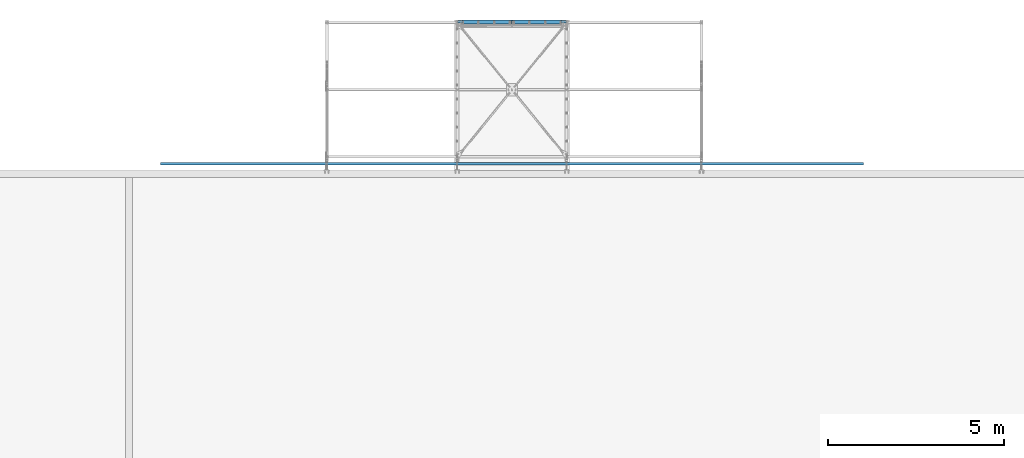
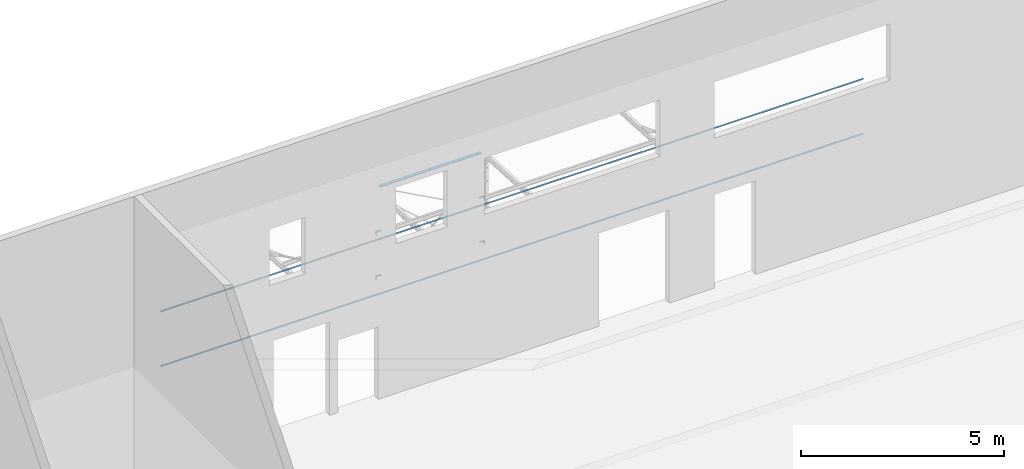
# One storey, part 10 of 10: 8 beams, 8 elements without a shape of their own.
"""IFC2X3 building model written with IfcOpenShell, lengths in millimetres."""

from ifc_helpers import new_model, si_unit, frame, origin_with_axes, place, context, subcontext, project, spatial, faceted_brep, material, type_object, element, aggregate, save


model = new_model("IFC2X3")

# Units and contexts
model_context = context("Model", 3, precision=1e-05, world=origin_with_axes())
body_context = subcontext(model_context, "Body", "Model", "MODEL_VIEW")
ifc_project = project(units=[si_unit("LENGTHUNIT", "METRE", prefix="MILLI"), si_unit("AREAUNIT", "SQUARE_METRE"), si_unit("VOLUMEUNIT", "CUBIC_METRE"), si_unit("MASSUNIT", "GRAM", prefix="KILO"), si_unit("TIMEUNIT", "SECOND"), si_unit("PLANEANGLEUNIT", "RADIAN"), si_unit("SOLIDANGLEUNIT", "STERADIAN"), si_unit("THERMODYNAMICTEMPERATUREUNIT", "DEGREE_CELSIUS"), si_unit("LUMINOUSINTENSITYUNIT", "LUMEN")], contexts=[model_context])

# Site, building, storey
site_placement = place(None, origin_with_axes())
site = spatial("IfcSite", under=ifc_project, at=site_placement, Name="Undefined", CompositionType="ELEMENT")
building_placement = place(site_placement, origin_with_axes())
building = spatial("IfcBuilding", under=site, at=building_placement, Name="Undefined", CompositionType="ELEMENT")
storey_placement = place(building_placement, origin_with_axes())
storey = spatial("IfcBuildingStorey", under=building, at=storey_placement, Name="Undefined", CompositionType="ELEMENT", Elevation=0.0)

# Assembly, beam
assembly_1_placement = place(storey_placement, origin_with_axes())
assembly_1 = element("IfcElementAssembly", 1, at=assembly_1_placement, inside=storey, AssemblyPlace="NOTDEFINED", PredefinedType="NOTDEFINED")
ifc_material = material(Name="Undefined/S235-E24")
beam_type_1 = type_object("IfcBeamType", Name="PL1*20000", PredefinedType="NOTDEFINED")
beam_1_placement = place(assembly_1_placement, frame((30452.9999822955, 25256.8676920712, 4458.83811292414), z_axis=(-1.0, 0.0, 0.0), x_axis=(-1.99997884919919e-09, 0.707106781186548, -0.707106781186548)))
beam_1 = element("IfcBeam", 2, at=beam_1_placement, type_object=beam_type_1, material=ifc_material, Name="BAVETTE", ObjectType="PL1*20000", context=body_context, shape_type="Brep", body=[
    faceted_brep([(-4.21823642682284e-09, -0.499999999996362, -10000.0), (4.21459844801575e-09, -0.5, 10000.0), (4.22005541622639e-09, 0.499999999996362, 10000.0), (-4.2127794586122e-09, 0.5, -10000.0), (11.9999994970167, 0.49999999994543, 10000.0), (11.9999994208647, 0.49999999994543, -10000.0), (9.58583235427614, -0.500000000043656, -10000.0), (9.58583243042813, -0.500000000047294, 10000.0), (-23.3547165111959, -34.8556789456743, 9999.99999999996), (-23.3547164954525, -34.8556789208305, -10000.0), (-23.4070299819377, -33.4937610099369, -10000.0), (-23.4070299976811, -33.4937610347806, 9999.99999999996), (-72.852191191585, 7.57072793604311, 9999.99999999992), (-72.8521911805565, 7.57072794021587, -10000.0000000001), (-72.9044950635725, 8.93263761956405, -10000.0000000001), (-72.9044950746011, 8.93263761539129, 9999.99999999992), (-108.207530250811, -27.7846111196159, 9999.99999999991), (-108.207530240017, -27.7846111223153, -10000.0000000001), (-108.914637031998, -27.0775043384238, 9999.99999999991), (-108.914637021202, -27.0775043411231, -10000.0000000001)], [[[0, 1, 2, 3]], [[3, 2, 4, 5]], [[1, 0, 6, 7]], [[5, 4, 8, 9]], [[7, 6, 10, 11]], [[9, 8, 12, 13]], [[11, 10, 14, 15]], [[13, 12, 16, 17]], [[12, 8, 4, 2, 1, 7, 11, 15, 18, 16]], [[15, 14, 19, 18]], [[14, 10, 6, 0, 3, 5, 9, 13, 17, 19]], [[18, 19, 17, 16]]]),
])
aggregate(assembly_1, [beam_1])

assembly_2_placement = place(storey_placement, origin_with_axes())
assembly_2 = element("IfcElementAssembly", 3, at=assembly_2_placement, inside=storey, AssemblyPlace="NOTDEFINED", PredefinedType="NOTDEFINED")
beam_2_placement = place(assembly_2_placement, frame((30452.9999822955, 25256.8676920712, 2808.83811292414), z_axis=(-1.0, 0.0, 0.0), x_axis=(-1.99997884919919e-09, 0.707106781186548, -0.707106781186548)))
beam_2 = element("IfcBeam", 4, at=beam_2_placement, type_object=beam_type_1, material=ifc_material, Name="BAVETTE", ObjectType="PL1*20000", context=body_context, shape_type="Brep", body=[
    faceted_brep([(-4.21823642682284e-09, -0.499999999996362, -10000.0), (4.21459844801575e-09, -0.5, 10000.0), (4.22005541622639e-09, 0.499999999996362, 10000.0), (-4.2127794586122e-09, 0.5, -10000.0), (11.9999994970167, 0.49999999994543, 10000.0), (11.9999994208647, 0.49999999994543, -10000.0), (9.58583235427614, -0.500000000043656, -10000.0), (9.58583243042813, -0.500000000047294, 10000.0), (-23.3547165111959, -34.8556789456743, 9999.99999999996), (-23.3547164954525, -34.8556789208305, -10000.0), (-23.4070299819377, -33.4937610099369, -10000.0), (-23.4070299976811, -33.4937610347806, 9999.99999999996), (-72.852191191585, 7.57072793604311, 9999.99999999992), (-72.8521911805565, 7.57072794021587, -10000.0000000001), (-72.9044950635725, 8.93263761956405, -10000.0000000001), (-72.9044950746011, 8.93263761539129, 9999.99999999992), (-108.207530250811, -27.7846111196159, 9999.99999999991), (-108.207530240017, -27.7846111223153, -10000.0000000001), (-108.914637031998, -27.0775043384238, 9999.99999999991), (-108.914637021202, -27.0775043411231, -10000.0000000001)], [[[0, 1, 2, 3]], [[3, 2, 4, 5]], [[1, 0, 6, 7]], [[5, 4, 8, 9]], [[7, 6, 10, 11]], [[9, 8, 12, 13]], [[11, 10, 14, 15]], [[13, 12, 16, 17]], [[12, 8, 4, 2, 1, 7, 11, 15, 18, 16]], [[15, 14, 19, 18]], [[14, 10, 6, 0, 3, 5, 9, 13, 17, 19]], [[18, 19, 17, 16]]]),
])
aggregate(assembly_2, [beam_2])

assembly_3_placement = place(storey_placement, origin_with_axes())
assembly_3 = element("IfcElementAssembly", 5, at=assembly_3_placement, inside=storey, AssemblyPlace="NOTDEFINED", PredefinedType="NOTDEFINED")
beam_type_2 = type_object("IfcBeamType", Name="PL5*60", PredefinedType="NOTDEFINED")
beam_3_placement = place(assembly_3_placement, frame((28908.4942429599, 29270.0000006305, 36.0000005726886), z_axis=(0.0, 1.0, 0.0), x_axis=(0.0, 0.0, 1.0)))
beam_3 = element("IfcBeam", 6, at=beam_3_placement, type_object=beam_type_2, material=ifc_material, Name="ATTACHE", ObjectType="PL5*60", context=body_context, shape_type="Brep", body=[
    faceted_brep([(7.105427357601e-15, -2.5, -30.0), (0.0, -2.50000000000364, 29.9999999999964), (7.105427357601e-15, 2.49999999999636, 29.9999999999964), (7.105427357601e-15, 2.5, -30.0), (105.000000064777, 2.49999999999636, 29.9999999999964), (105.000000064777, 2.5, -30.0), (109.999999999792, -2.5, -30.0), (109.999999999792, -2.50000000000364, 29.9999999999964), (105.000001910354, 144.500029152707, 29.9999999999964), (105.000001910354, 144.500029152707, -30.0), (110.000001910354, 144.500029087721, 29.9999999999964), (110.000001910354, 144.500029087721, -30.0)], [[[0, 1, 2, 3]], [[3, 2, 4, 5]], [[1, 0, 6, 7]], [[5, 4, 8, 9]], [[4, 2, 1, 7, 10, 8]], [[7, 6, 11, 10]], [[6, 0, 3, 5, 9, 11]], [[10, 11, 9, 8]]]),
])
aggregate(assembly_3, [beam_3])

assembly_4_placement = place(storey_placement, origin_with_axes())
assembly_4 = element("IfcElementAssembly", 7, at=assembly_4_placement, inside=storey, AssemblyPlace="NOTDEFINED", PredefinedType="NOTDEFINED")
beam_4_placement = place(assembly_4_placement, frame((28908.4942429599, 29270.0000006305, 1376.00000057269), z_axis=(0.0, 1.0, 0.0), x_axis=(0.0, 0.0, 1.0)))
beam_4 = element("IfcBeam", 8, at=beam_4_placement, type_object=beam_type_2, material=ifc_material, Name="ATTACHE", ObjectType="PL5*60", context=body_context, shape_type="Brep", body=[
    faceted_brep([(7.105427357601e-15, -2.5, -30.0), (0.0, -2.50000000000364, 29.9999999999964), (7.105427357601e-15, 2.49999999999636, 29.9999999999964), (7.105427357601e-15, 2.5, -30.0), (105.000000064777, 2.49999999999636, 29.9999999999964), (105.000000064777, 2.5, -30.0), (109.999999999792, -2.5, -30.0), (109.999999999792, -2.50000000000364, 29.9999999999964), (105.000001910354, 144.500029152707, 29.9999999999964), (105.000001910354, 144.500029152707, -30.0), (110.000001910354, 144.500029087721, 29.9999999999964), (110.000001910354, 144.500029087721, -30.0)], [[[0, 1, 2, 3]], [[3, 2, 4, 5]], [[1, 0, 6, 7]], [[5, 4, 8, 9]], [[4, 2, 1, 7, 10, 8]], [[7, 6, 11, 10]], [[6, 0, 3, 5, 9, 11]], [[10, 11, 9, 8]]]),
])
aggregate(assembly_4, [beam_4])

assembly_5_placement = place(storey_placement, origin_with_axes())
assembly_5 = element("IfcElementAssembly", 9, at=assembly_5_placement, inside=storey, AssemblyPlace="NOTDEFINED", PredefinedType="NOTDEFINED")
beam_5_placement = place(assembly_5_placement, frame((31997.4999712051, 29270.0000006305, 36.0000005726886), z_axis=(0.0, 1.0, 0.0), x_axis=(0.0, 0.0, 1.0)))
beam_5 = element("IfcBeam", 10, at=beam_5_placement, type_object=beam_type_2, material=ifc_material, Name="ATTACHE", ObjectType="PL5*60", context=body_context, shape_type="Brep", body=[
    faceted_brep([(7.105427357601e-15, -2.5, -30.0), (0.0, -2.50000000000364, 29.9999999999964), (7.105427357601e-15, 2.49999999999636, 29.9999999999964), (7.105427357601e-15, 2.5, -30.0), (109.999999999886, 2.50000000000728, 29.9999999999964), (109.999999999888, 2.50000000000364, -30.0000000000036), (105.000000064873, -2.49999999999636, -30.0), (105.000000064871, -2.49999999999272, 30.0), (110.000001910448, -144.500029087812, 29.9999999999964), (110.000001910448, -144.500029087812, -30.0), (105.000001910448, -144.500029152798, 29.9999999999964), (105.000001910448, -144.500029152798, -30.0)], [[[0, 1, 2, 3]], [[3, 2, 4, 5]], [[1, 0, 6, 7]], [[5, 4, 8, 9]], [[4, 2, 1, 7, 10, 8]], [[7, 6, 11, 10]], [[6, 0, 3, 5, 9, 11]], [[10, 11, 9, 8]]]),
])
aggregate(assembly_5, [beam_5])

assembly_6_placement = place(storey_placement, origin_with_axes())
assembly_6 = element("IfcElementAssembly", 11, at=assembly_6_placement, inside=storey, AssemblyPlace="NOTDEFINED", PredefinedType="NOTDEFINED")
beam_6_placement = place(assembly_6_placement, frame((31997.4999712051, 29270.0000006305, 1376.00000057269), z_axis=(0.0, 1.0, 0.0), x_axis=(0.0, 0.0, 1.0)))
beam_6 = element("IfcBeam", 12, at=beam_6_placement, type_object=beam_type_2, material=ifc_material, Name="ATTACHE", ObjectType="PL5*60", context=body_context, shape_type="Brep", body=[
    faceted_brep([(7.105427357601e-15, -2.5, -30.0), (0.0, -2.50000000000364, 29.9999999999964), (7.105427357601e-15, 2.49999999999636, 29.9999999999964), (7.105427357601e-15, 2.5, -30.0), (109.999999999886, 2.50000000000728, 29.9999999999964), (109.999999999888, 2.50000000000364, -30.0000000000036), (105.000000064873, -2.49999999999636, -30.0), (105.000000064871, -2.49999999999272, 30.0), (110.000001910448, -144.500029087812, 29.9999999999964), (110.000001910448, -144.500029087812, -30.0), (105.000001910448, -144.500029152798, 29.9999999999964), (105.000001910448, -144.500029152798, -30.0)], [[[0, 1, 2, 3]], [[3, 2, 4, 5]], [[1, 0, 6, 7]], [[5, 4, 8, 9]], [[4, 2, 1, 7, 10, 8]], [[7, 6, 11, 10]], [[6, 0, 3, 5, 9, 11]], [[10, 11, 9, 8]]]),
])
aggregate(assembly_6, [beam_6])

assembly_7_placement = place(storey_placement, origin_with_axes())
assembly_7 = element("IfcElementAssembly", 13, at=assembly_7_placement, inside=storey, AssemblyPlace="NOTDEFINED", PredefinedType="NOTDEFINED")
beam_type_3 = type_object("IfcBeamType", Name="PL3*1450", PredefinedType="NOTDEFINED")
beam_7_placement = place(assembly_7_placement, frame((31178.9999548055, 29205.0790678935, 2838.32713546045), z_axis=(-1.0, 0.0, 0.0), x_axis=(-6.99999093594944e-09, 0.998630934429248, -0.0523092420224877)))
beam_7 = element("IfcBeam", 14, at=beam_7_placement, type_object=beam_type_3, material=ifc_material, Name="FEUILLURE", ObjectType="PL3*1450", context=body_context, shape_type="Brep", body=[
    faceted_brep([(5.62795321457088e-09, -1.50000000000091, -725.0), (5.95173332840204e-09, -1.50000000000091, 725.0), (-5.6206772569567e-09, 1.49999999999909, 725.0), (-5.94445737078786e-09, 1.49999999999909, -725.0), (112.153024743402, 1.50000043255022, 724.999999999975), (112.153024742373, 1.50000043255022, -725.000000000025), (114.999994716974, -1.49999955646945, -725.000000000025), (114.999994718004, -1.49999955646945, 724.999999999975), (114.619563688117, 48.588472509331, 724.999999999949), (114.619563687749, 48.5884725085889, -725.000000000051), (117.61545649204, 48.4315447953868, 724.999999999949), (117.615456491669, 48.4315447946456, -725.000000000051)], [[[0, 1, 2, 3]], [[3, 2, 4, 5]], [[1, 0, 6, 7]], [[5, 4, 8, 9]], [[4, 2, 1, 7, 10, 8]], [[7, 6, 11, 10]], [[6, 0, 3, 5, 9, 11]], [[10, 11, 9, 8]]]),
])
aggregate(assembly_7, [beam_7])

assembly_8_placement = place(storey_placement, origin_with_axes())
assembly_8 = element("IfcElementAssembly", 15, at=assembly_8_placement, inside=storey, AssemblyPlace="NOTDEFINED", PredefinedType="NOTDEFINED")
beam_8_placement = place(assembly_8_placement, frame((29726.9999548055, 29205.0790678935, 2838.32713546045), z_axis=(-1.0, 0.0, 0.0), x_axis=(-6.99999093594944e-09, 0.998630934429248, -0.0523092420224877)))
beam_8 = element("IfcBeam", 16, at=beam_8_placement, type_object=beam_type_3, material=ifc_material, Name="FEUILLURE", ObjectType="PL3*1450", context=body_context, shape_type="Brep", body=[
    faceted_brep([(5.62795321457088e-09, -1.50000000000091, -725.0), (5.95173332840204e-09, -1.50000000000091, 725.0), (-5.6206772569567e-09, 1.49999999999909, 725.0), (-5.94445737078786e-09, 1.49999999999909, -725.0), (112.153024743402, 1.50000043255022, 724.999999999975), (112.153024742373, 1.50000043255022, -725.000000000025), (114.999994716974, -1.49999955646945, -725.000000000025), (114.999994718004, -1.49999955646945, 724.999999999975), (114.619563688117, 48.588472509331, 724.999999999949), (114.619563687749, 48.5884725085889, -725.000000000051), (117.61545649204, 48.4315447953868, 724.999999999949), (117.615456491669, 48.4315447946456, -725.000000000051)], [[[0, 1, 2, 3]], [[3, 2, 4, 5]], [[1, 0, 6, 7]], [[5, 4, 8, 9]], [[4, 2, 1, 7, 10, 8]], [[7, 6, 11, 10]], [[6, 0, 3, 5, 9, 11]], [[10, 11, 9, 8]]]),
])
aggregate(assembly_8, [beam_8])

save(model, "model.ifc")
